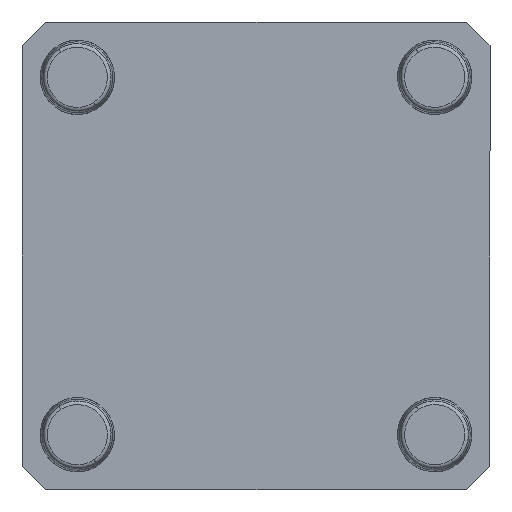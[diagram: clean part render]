
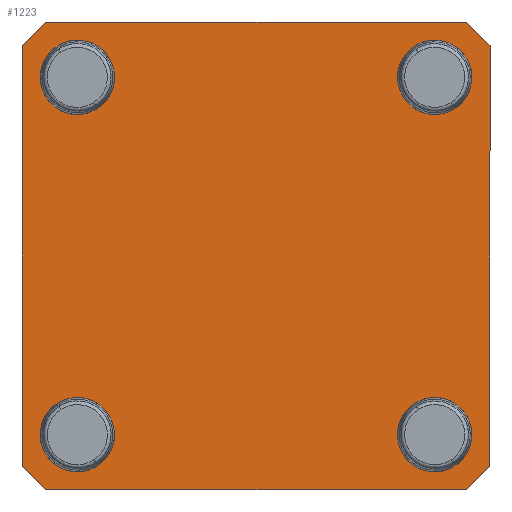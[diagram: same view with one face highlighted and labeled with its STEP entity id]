
A CAD part, front view. The second image highlights one B-rep face of the part: STEP entity #1223.
In plain terms, the highlighted planar face has unit normal (0, -1, 0).
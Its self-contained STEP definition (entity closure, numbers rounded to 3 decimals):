
#4 = CARTESIAN_POINT ( 'NONE',  ( 62.865, 0., 56.515 ) ) ;
#15 = CARTESIAN_POINT ( 'NONE',  ( -62.865, 0., 56.515 ) ) ;
#43 = FACE_BOUND ( 'NONE', #765, .T. ) ;
#64 = VERTEX_POINT ( 'NONE', #921 ) ;
#65 = CARTESIAN_POINT ( 'NONE',  ( 0., 0., 0. ) ) ;
#114 = AXIS2_PLACEMENT_3D ( 'NONE', #895, #302, #1154 ) ;
#117 = CARTESIAN_POINT ( 'NONE',  ( -62.865, 0., -62.865 ) ) ;
#133 = EDGE_LOOP ( 'NONE', ( #410, #1560 ) ) ;
#149 = ORIENTED_EDGE ( 'NONE', *, *, #760, .F. ) ;
#154 = CARTESIAN_POINT ( 'NONE',  ( 48., 0., -39.99 ) ) ;
#162 = CARTESIAN_POINT ( 'NONE',  ( -48., 0., 48. ) ) ;
#172 = CARTESIAN_POINT ( 'NONE',  ( -48., 0., -48. ) ) ;
#202 = VECTOR ( 'NONE', #571, 1000. ) ;
#213 = CIRCLE ( 'NONE', #1817, 8.01 ) ;
#226 = VERTEX_POINT ( 'NONE', #791 ) ;
#228 = DIRECTION ( 'NONE',  ( 0., -1., 0. ) ) ;
#236 = CIRCLE ( 'NONE', #991, 8.01 ) ;
#239 = EDGE_CURVE ( 'NONE', #64, #1219, #1404, .T. ) ;
#288 = ORIENTED_EDGE ( 'NONE', *, *, #1723, .F. ) ;
#290 = VERTEX_POINT ( 'NONE', #1525 ) ;
#302 = DIRECTION ( 'NONE',  ( 0., -1., 0. ) ) ;
#303 = CIRCLE ( 'NONE', #114, 8.01 ) ;
#347 = DIRECTION ( 'NONE',  ( -0.707, 0., -0.707 ) ) ;
#371 = FACE_BOUND ( 'NONE', #1519, .T. ) ;
#382 = CARTESIAN_POINT ( 'NONE',  ( -56.515, 0., 62.865 ) ) ;
#393 = CIRCLE ( 'NONE', #841, 8.01 ) ;
#410 = ORIENTED_EDGE ( 'NONE', *, *, #1770, .F. ) ;
#417 = CARTESIAN_POINT ( 'NONE',  ( 48., 0., -56.01 ) ) ;
#451 = DIRECTION ( 'NONE',  ( 0., -1., 0. ) ) ;
#464 = ORIENTED_EDGE ( 'NONE', *, *, #1274, .F. ) ;
#490 = VERTEX_POINT ( 'NONE', #1199 ) ;
#507 = CARTESIAN_POINT ( 'NONE',  ( 62.865, 0., -62.865 ) ) ;
#510 = FACE_OUTER_BOUND ( 'NONE', #646, .T. ) ;
#517 = ORIENTED_EDGE ( 'NONE', *, *, #239, .F. ) ;
#571 = DIRECTION ( 'NONE',  ( 0., 0., 1. ) ) ;
#574 = EDGE_CURVE ( 'NONE', #1597, #997, #1593, .T. ) ;
#577 = CARTESIAN_POINT ( 'NONE',  ( -48., 0., 56.01 ) ) ;
#587 = CARTESIAN_POINT ( 'NONE',  ( 56.515, 0., 62.865 ) ) ;
#598 = DIRECTION ( 'NONE',  ( 0., 0., -1. ) ) ;
#632 = CARTESIAN_POINT ( 'NONE',  ( 62.865, 0., -56.515 ) ) ;
#644 = VECTOR ( 'NONE', #812, 1000. ) ;
#646 = EDGE_LOOP ( 'NONE', ( #288, #1168, #1164, #1111, #517, #920, #649, #977 ) ) ;
#649 = ORIENTED_EDGE ( 'NONE', *, *, #896, .F. ) ;
#654 = EDGE_CURVE ( 'NONE', #226, #1219, #890, .T. ) ;
#662 = FACE_BOUND ( 'NONE', #1426, .T. ) ;
#695 = VECTOR ( 'NONE', #1454, 1000. ) ;
#711 = CIRCLE ( 'NONE', #1543, 8.01 ) ;
#717 = EDGE_CURVE ( 'NONE', #997, #1597, #236, .T. ) ;
#727 = DIRECTION ( 'NONE',  ( -0.707, 0., 0.707 ) ) ;
#739 = CARTESIAN_POINT ( 'NONE',  ( -62.865, 0., 62.865 ) ) ;
#751 = LINE ( 'NONE', #4, #1750 ) ;
#760 = EDGE_CURVE ( 'NONE', #1343, #1756, #213, .T. ) ;
#765 = EDGE_LOOP ( 'NONE', ( #464, #149 ) ) ;
#774 = CARTESIAN_POINT ( 'NONE',  ( 48., 0., 56.01 ) ) ;
#787 = ORIENTED_EDGE ( 'NONE', *, *, #867, .F. ) ;
#791 = CARTESIAN_POINT ( 'NONE',  ( 56.515, 0., -62.865 ) ) ;
#812 = DIRECTION ( 'NONE',  ( 0., 0., -1. ) ) ;
#814 = VERTEX_POINT ( 'NONE', #587 ) ;
#826 = DIRECTION ( 'NONE',  ( 0., 0., -1. ) ) ;
#831 = VERTEX_POINT ( 'NONE', #1449 ) ;
#841 = AXIS2_PLACEMENT_3D ( 'NONE', #1131, #1273, #1140 ) ;
#855 = VERTEX_POINT ( 'NONE', #15 ) ;
#867 = EDGE_CURVE ( 'NONE', #290, #1323, #303, .T. ) ;
#882 = EDGE_CURVE ( 'NONE', #64, #814, #751, .T. ) ;
#887 = LINE ( 'NONE', #739, #695 ) ;
#890 = LINE ( 'NONE', #1267, #1235 ) ;
#895 = CARTESIAN_POINT ( 'NONE',  ( -48., 0., -48. ) ) ;
#896 = EDGE_CURVE ( 'NONE', #897, #814, #887, .T. ) ;
#897 = VERTEX_POINT ( 'NONE', #1026 ) ;
#911 = DIRECTION ( 'NONE',  ( -1., 0., 0. ) ) ;
#920 = ORIENTED_EDGE ( 'NONE', *, *, #882, .T. ) ;
#921 = CARTESIAN_POINT ( 'NONE',  ( 62.865, 0., 56.515 ) ) ;
#927 = PLANE ( 'NONE',  #1266 ) ;
#954 = VERTEX_POINT ( 'NONE', #1178 ) ;
#975 = ORIENTED_EDGE ( 'NONE', *, *, #574, .F. ) ;
#977 = ORIENTED_EDGE ( 'NONE', *, *, #1141, .T. ) ;
#991 = AXIS2_PLACEMENT_3D ( 'NONE', #993, #1849, #1569 ) ;
#993 = CARTESIAN_POINT ( 'NONE',  ( 48., 0., 48. ) ) ;
#997 = VERTEX_POINT ( 'NONE', #774 ) ;
#1006 = CARTESIAN_POINT ( 'NONE',  ( -48., 0., -56.01 ) ) ;
#1023 = EDGE_CURVE ( 'NONE', #1323, #290, #1636, .T. ) ;
#1026 = CARTESIAN_POINT ( 'NONE',  ( -56.515, 0., 62.865 ) ) ;
#1042 = AXIS2_PLACEMENT_3D ( 'NONE', #162, #451, #598 ) ;
#1046 = EDGE_CURVE ( 'NONE', #490, #954, #1613, .T. ) ;
#1055 = CARTESIAN_POINT ( 'NONE',  ( -62.865, 0., -56.515 ) ) ;
#1064 = DIRECTION ( 'NONE',  ( 0., -1., 0. ) ) ;
#1111 = ORIENTED_EDGE ( 'NONE', *, *, #654, .T. ) ;
#1131 = CARTESIAN_POINT ( 'NONE',  ( -48., 0., 48. ) ) ;
#1140 = DIRECTION ( 'NONE',  ( 0., 0., -1. ) ) ;
#1141 = EDGE_CURVE ( 'NONE', #897, #855, #1846, .T. ) ;
#1145 = CARTESIAN_POINT ( 'NONE',  ( 48., 0., -48. ) ) ;
#1154 = DIRECTION ( 'NONE',  ( 0., 0., 1. ) ) ;
#1164 = ORIENTED_EDGE ( 'NONE', *, *, #1201, .F. ) ;
#1168 = ORIENTED_EDGE ( 'NONE', *, *, #1046, .T. ) ;
#1178 = CARTESIAN_POINT ( 'NONE',  ( -56.515, 0., -62.865 ) ) ;
#1194 = DIRECTION ( 'NONE',  ( 0., 0., 1. ) ) ;
#1199 = CARTESIAN_POINT ( 'NONE',  ( -62.865, 0., -56.515 ) ) ;
#1201 = EDGE_CURVE ( 'NONE', #226, #954, #1572, .T. ) ;
#1213 = CARTESIAN_POINT ( 'NONE',  ( -62.865, 0., -62.865 ) ) ;
#1219 = VERTEX_POINT ( 'NONE', #632 ) ;
#1223 = ADVANCED_FACE ( 'NONE', ( #371, #662, #43, #1528, #510 ), #927, .F. ) ;
#1235 = VECTOR ( 'NONE', #1813, 1000. ) ;
#1244 = CARTESIAN_POINT ( 'NONE',  ( 48., 0., 48. ) ) ;
#1255 = VECTOR ( 'NONE', #1641, 1000. ) ;
#1266 = AXIS2_PLACEMENT_3D ( 'NONE', #65, #1637, #1787 ) ;
#1267 = CARTESIAN_POINT ( 'NONE',  ( 56.515, 0., -62.865 ) ) ;
#1272 = DIRECTION ( 'NONE',  ( 0., -1., 0. ) ) ;
#1273 = DIRECTION ( 'NONE',  ( 0., -1., 0. ) ) ;
#1274 = EDGE_CURVE ( 'NONE', #1756, #1343, #711, .T. ) ;
#1276 = VECTOR ( 'NONE', #911, 1000. ) ;
#1277 = AXIS2_PLACEMENT_3D ( 'NONE', #1244, #228, #1833 ) ;
#1288 = AXIS2_PLACEMENT_3D ( 'NONE', #172, #1064, #1194 ) ;
#1290 = DIRECTION ( 'NONE',  ( 0., 0., -1. ) ) ;
#1311 = CARTESIAN_POINT ( 'NONE',  ( 48., 0., 39.99 ) ) ;
#1323 = VERTEX_POINT ( 'NONE', #1006 ) ;
#1341 = VERTEX_POINT ( 'NONE', #577 ) ;
#1343 = VERTEX_POINT ( 'NONE', #154 ) ;
#1367 = ORIENTED_EDGE ( 'NONE', *, *, #717, .F. ) ;
#1404 = LINE ( 'NONE', #507, #644 ) ;
#1426 = EDGE_LOOP ( 'NONE', ( #1730, #787 ) ) ;
#1449 = CARTESIAN_POINT ( 'NONE',  ( -48., 0., 39.99 ) ) ;
#1454 = DIRECTION ( 'NONE',  ( 1., 0., 0. ) ) ;
#1519 = EDGE_LOOP ( 'NONE', ( #975, #1367 ) ) ;
#1525 = CARTESIAN_POINT ( 'NONE',  ( -48., 0., -39.99 ) ) ;
#1528 = FACE_BOUND ( 'NONE', #133, .T. ) ;
#1543 = AXIS2_PLACEMENT_3D ( 'NONE', #1835, #1674, #826 ) ;
#1560 = ORIENTED_EDGE ( 'NONE', *, *, #1599, .F. ) ;
#1568 = LINE ( 'NONE', #117, #202 ) ;
#1569 = DIRECTION ( 'NONE',  ( 0., 0., 1. ) ) ;
#1572 = LINE ( 'NONE', #1213, #1276 ) ;
#1593 = CIRCLE ( 'NONE', #1277, 8.01 ) ;
#1597 = VERTEX_POINT ( 'NONE', #1311 ) ;
#1599 = EDGE_CURVE ( 'NONE', #1341, #831, #1791, .T. ) ;
#1613 = LINE ( 'NONE', #1055, #1255 ) ;
#1636 = CIRCLE ( 'NONE', #1288, 8.01 ) ;
#1637 = DIRECTION ( 'NONE',  ( 0., 1., 0. ) ) ;
#1641 = DIRECTION ( 'NONE',  ( 0.707, 0., -0.707 ) ) ;
#1674 = DIRECTION ( 'NONE',  ( 0., -1., 0. ) ) ;
#1723 = EDGE_CURVE ( 'NONE', #490, #855, #1568, .T. ) ;
#1730 = ORIENTED_EDGE ( 'NONE', *, *, #1023, .F. ) ;
#1750 = VECTOR ( 'NONE', #727, 1000. ) ;
#1756 = VERTEX_POINT ( 'NONE', #417 ) ;
#1770 = EDGE_CURVE ( 'NONE', #831, #1341, #393, .T. ) ;
#1787 = DIRECTION ( 'NONE',  ( 0., 0., 1. ) ) ;
#1791 = CIRCLE ( 'NONE', #1042, 8.01 ) ;
#1813 = DIRECTION ( 'NONE',  ( 0.707, 0., 0.707 ) ) ;
#1817 = AXIS2_PLACEMENT_3D ( 'NONE', #1145, #1272, #1290 ) ;
#1824 = VECTOR ( 'NONE', #347, 1000. ) ;
#1833 = DIRECTION ( 'NONE',  ( 0., 0., 1. ) ) ;
#1835 = CARTESIAN_POINT ( 'NONE',  ( 48., 0., -48. ) ) ;
#1846 = LINE ( 'NONE', #382, #1824 ) ;
#1849 = DIRECTION ( 'NONE',  ( 0., -1., 0. ) ) ;
